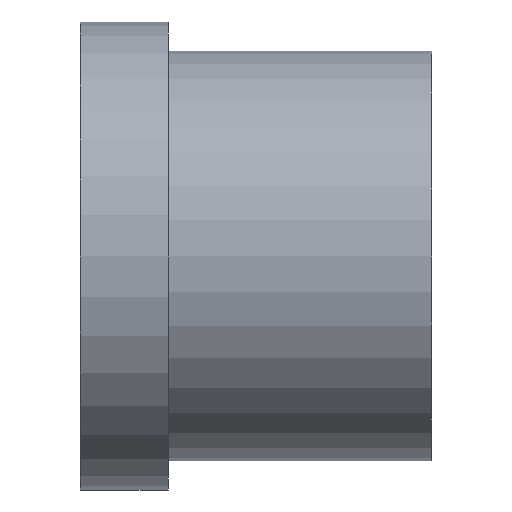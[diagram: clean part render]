
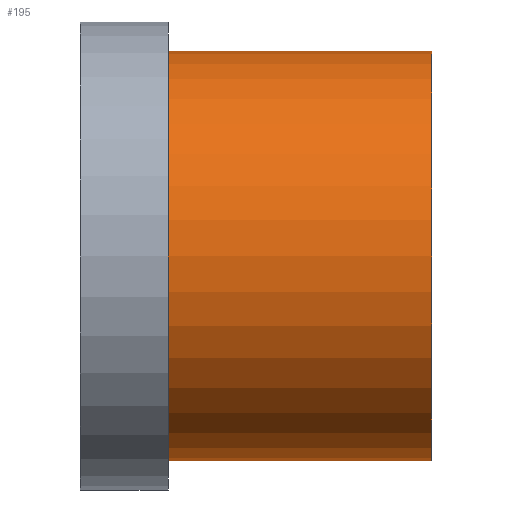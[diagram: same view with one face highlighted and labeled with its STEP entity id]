
A CAD part, left-side view. The second image highlights one B-rep face of the part: STEP entity #195.
In plain terms, the highlighted cylindrical face has radius 7 mm (diameter 14 mm), a full revolution.
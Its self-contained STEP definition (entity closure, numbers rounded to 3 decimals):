
#32=ORIENTED_EDGE('',*,*,#50,.T.);
#33=ORIENTED_EDGE('',*,*,#49,.F.);
#49=EDGE_CURVE('',#59,#59,#69,.T.);
#50=EDGE_CURVE('',#60,#60,#70,.T.);
#59=VERTEX_POINT('',#280);
#60=VERTEX_POINT('',#283);
#69=CIRCLE('',#213,7.);
#70=CIRCLE('',#215,7.);
#82=EDGE_LOOP('',(#32));
#83=EDGE_LOOP('',(#33));
#102=FACE_BOUND('',#82,.T.);
#103=FACE_BOUND('',#83,.T.);
#117=CYLINDRICAL_SURFACE('',#214,7.);
#195=ADVANCED_FACE('',(#102,#103),#117,.T.);
#213=AXIS2_PLACEMENT_3D('',#279,#241,#242);
#214=AXIS2_PLACEMENT_3D('',#281,#243,#244);
#215=AXIS2_PLACEMENT_3D('',#282,#245,#246);
#241=DIRECTION('',(0.,-1.,0.));
#242=DIRECTION('',(0.,0.,-1.));
#243=DIRECTION('',(0.,-1.,0.));
#244=DIRECTION('',(0.,0.,-1.));
#245=DIRECTION('',(0.,-1.,0.));
#246=DIRECTION('',(0.,0.,-1.));
#279=CARTESIAN_POINT('',(0.,0.,0.));
#280=CARTESIAN_POINT('',(0.,0.,-7.));
#281=CARTESIAN_POINT('',(0.,0.,0.));
#282=CARTESIAN_POINT('',(0.,9.,0.));
#283=CARTESIAN_POINT('',(0.,9.,-7.));
